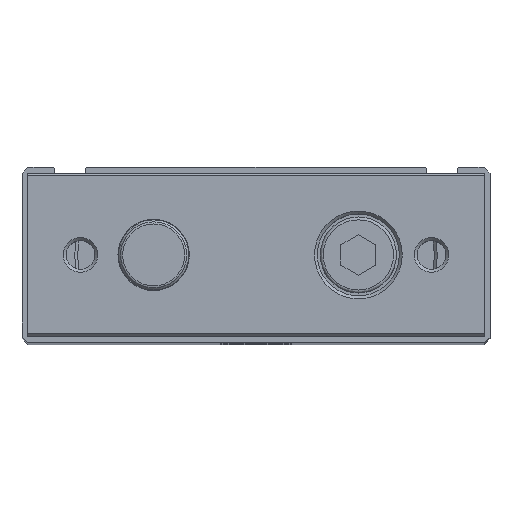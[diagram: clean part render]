
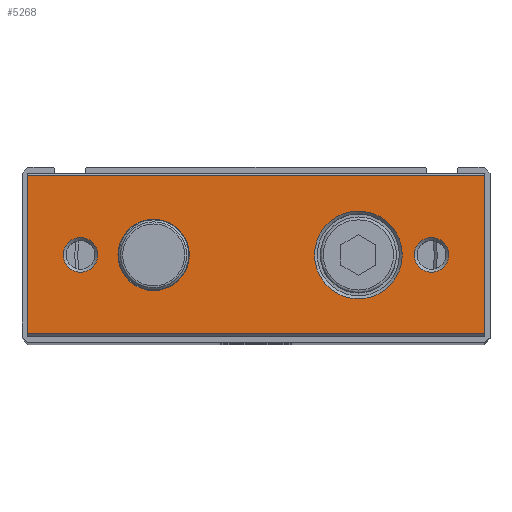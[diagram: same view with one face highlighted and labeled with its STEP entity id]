
A CAD part, top view. The second image highlights one B-rep face of the part: STEP entity #5268.
In plain terms, the highlighted planar face has unit normal (0, 0, 1).
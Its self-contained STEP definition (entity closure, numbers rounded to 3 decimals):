
#3994=CARTESIAN_POINT('',(-39.0,-13.5,186.));
#3995=VERTEX_POINT('',#3994);
#4002=CARTESIAN_POINT('',(-39.0,13.5,186.));
#4003=VERTEX_POINT('',#4002);
#4004=CARTESIAN_POINT('',(-39.0,13.5,186.));
#4005=DIRECTION('',(0.0,-1.0,0.0));
#4006=VECTOR('',#4005,27.);
#4007=LINE('',#4004,#4006);
#4008=EDGE_CURVE('',#4003,#3995,#4007,.T.);
#4122=CARTESIAN_POINT('',(39.0,-13.5,186.));
#4123=VERTEX_POINT('',#4122);
#4130=CARTESIAN_POINT('',(39.0,-13.5,186.));
#4131=DIRECTION('',(-1.0,0.0,0.0));
#4132=VECTOR('',#4131,78.0);
#4133=LINE('',#4130,#4132);
#4134=EDGE_CURVE('',#4123,#3995,#4133,.T.);
#4201=CARTESIAN_POINT('',(39.0,13.5,186.));
#4202=VERTEX_POINT('',#4201);
#4209=CARTESIAN_POINT('',(39.0,-13.5,186.));
#4210=DIRECTION('',(0.0,1.0,0.0));
#4211=VECTOR('',#4210,27.);
#4212=LINE('',#4209,#4211);
#4213=EDGE_CURVE('',#4123,#4202,#4212,.T.);
#5204=CARTESIAN_POINT('',(-27.042,0.,186.));
#5205=VERTEX_POINT('',#5204);
#5206=CARTESIAN_POINT('',(-30.0,0.,186.));
#5207=DIRECTION('',(0.0,0.0,1.0));
#5208=DIRECTION('',(-1.0,0.0,0.0));
#5209=AXIS2_PLACEMENT_3D('',#5206,#5207,#5208);
#5210=CIRCLE('',#5209,2.958);
#5211=EDGE_CURVE('',#5205,#5205,#5210,.T.);
#5216=CARTESIAN_POINT('',(0.0,-14.,186.));
#5217=DIRECTION('',(0.0,0.0,1.0));
#5218=DIRECTION('',(1.0,0.0,0.0));
#5219=AXIS2_PLACEMENT_3D('',#5216,#5217,#5218);
#5220=PLANE('',#5219);
#5221=ORIENTED_EDGE('',*,*,#4134,.F.);
#5222=ORIENTED_EDGE('',*,*,#4213,.T.);
#5223=CARTESIAN_POINT('',(-39.0,13.5,186.));
#5224=DIRECTION('',(1.0,0.0,0.0));
#5225=VECTOR('',#5224,78.0);
#5226=LINE('',#5223,#5225);
#5227=EDGE_CURVE('',#4003,#4202,#5226,.T.);
#5228=ORIENTED_EDGE('',*,*,#5227,.F.);
#5229=ORIENTED_EDGE('',*,*,#4008,.T.);
#5230=EDGE_LOOP('',(#5221,#5222,#5228,#5229));
#5231=FACE_OUTER_BOUND('',#5230,.T.);
#5232=CARTESIAN_POINT('',(32.959,0.,186.));
#5233=VERTEX_POINT('',#5232);
#5234=CARTESIAN_POINT('',(30.0,0.,186.));
#5235=DIRECTION('',(0.0,0.0,1.0));
#5236=DIRECTION('',(-1.0,0.0,0.0));
#5237=AXIS2_PLACEMENT_3D('',#5234,#5235,#5236);
#5238=CIRCLE('',#5237,2.958);
#5239=EDGE_CURVE('',#5233,#5233,#5238,.T.);
#5240=ORIENTED_EDGE('',*,*,#5239,.F.);
#5241=EDGE_LOOP('',(#5240));
#5242=FACE_BOUND('',#5241,.T.);
#5243=CARTESIAN_POINT('',(-11.4,0.,186.));
#5244=VERTEX_POINT('',#5243);
#5245=CARTESIAN_POINT('',(-17.5,0.,186.));
#5246=DIRECTION('',(0.0,0.0,-1.0));
#5247=DIRECTION('',(-1.0,0.0,0.0));
#5248=AXIS2_PLACEMENT_3D('',#5245,#5246,#5247);
#5249=CIRCLE('',#5248,6.1);
#5250=EDGE_CURVE('',#5244,#5244,#5249,.T.);
#5251=ORIENTED_EDGE('',*,*,#5250,.T.);
#5252=EDGE_LOOP('',(#5251));
#5253=FACE_BOUND('',#5252,.T.);
#5254=CARTESIAN_POINT('',(25.0,0.,186.));
#5255=VERTEX_POINT('',#5254);
#5256=CARTESIAN_POINT('',(17.5,0.,186.));
#5257=DIRECTION('',(0.0,0.0,1.0));
#5258=DIRECTION('',(-1.0,0.0,0.0));
#5259=AXIS2_PLACEMENT_3D('',#5256,#5257,#5258);
#5260=CIRCLE('',#5259,7.5);
#5261=EDGE_CURVE('',#5255,#5255,#5260,.T.);
#5262=ORIENTED_EDGE('',*,*,#5261,.F.);
#5263=EDGE_LOOP('',(#5262));
#5264=FACE_BOUND('',#5263,.T.);
#5265=ORIENTED_EDGE('',*,*,#5211,.F.);
#5266=EDGE_LOOP('',(#5265));
#5267=FACE_BOUND('',#5266,.T.);
#5268=ADVANCED_FACE('',(#5231,#5242,#5253,#5264,#5267),#5220,.T.);
